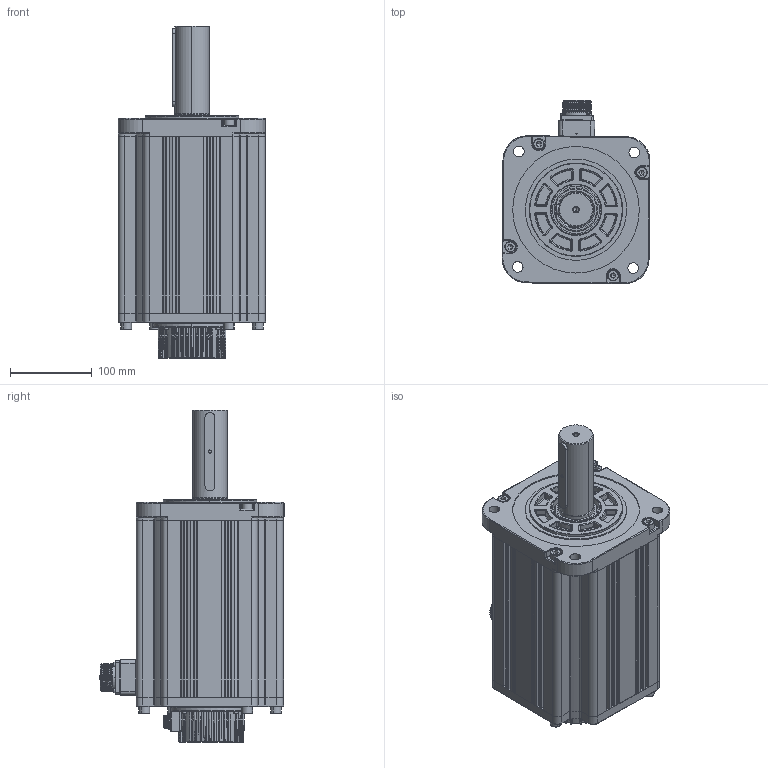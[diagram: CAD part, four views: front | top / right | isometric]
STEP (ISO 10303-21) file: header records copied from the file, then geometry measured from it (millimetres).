
FILE_DESCRIPTION (( 'STEP AP214' ), '1' );
FILE_NAME ('153.5长铁芯 无刹车 B出轴.STEP', '2021-10-26T06:27:25', ( '' ), ( '' ), 'SwSTEP 2.0', 'SolidWorks 2014', '' );
FILE_SCHEMA (( 'AUTOMOTIVE_DESIGN' ));
Length unit declared in the file: millimetre
Products named in the file (16): す瑩^180#陔萇儂-拸价陬 201021; 埴芛囀鞠褒 ISO 4762 M3 x 10 --- 10N; 埴芛囀鞠褒 ISO 4762 M8 x 30 --- 30N; SC180ヶ傷裔1009; 180儂褲1009; 180#綴傷裔; SCSC瑤諾脣芛 16M-9H; SC180瑤脣釱1015; SC蚐猾 D00B999YF8-TC 44-62-10; 180粣-47沺郋; 153.5长铁芯 无刹车 B出轴; SC晤鎢ん欶200908_10郋; 180#陔隅赽201019; 埴芛囀鞠褒 ISO 4762 M3 x 30 --- 18N; 坋趼攫芛蹟佪 M2X8-8  H type-N; SCCMS3102A22-22P-Z
Assembly tree (31 placements, depth 3):
  153.5长铁芯 无刹车 B出轴
    SC晤鎢ん欶200908_10郋
    SCSC瑤諾脣芛 16M-9H
    SC蚐猾 D00B999YF8-TC 44-62-10
    坋趼攫芛蹟佪 M2X8-8  H type-N  x4
    埴芛囀鞠褒 ISO 4762 M3 x 10 --- 10N  x4
    埴芛囀鞠褒 ISO 4762 M8 x 30 --- 30N  x8
    埴芛囀鞠褒 ISO 4762 M3 x 30 --- 18N  x4
    180粣-47沺郋
    180#綴傷裔
    す瑩^180#陔萇儂-拸价陬 201021
    180#陔隅赽201019
      SC180ヶ傷裔1009
      SCCMS3102A22-22P-Z
      SC180瑤脣釱1015
      180儂褲1009
Bounding box: 181.11 x 225.3 x 406.5 mm (x, y, z)
Volume: 2411457.4 mm3; surface area: 629436.3 mm2
Topology: 30 solids, 30 shells, 3132 faces, 7601 edges, 4430 vertices
Faces by surface type: cylinder 1021, plane 762, torus 465, bspline 440, cone 255, sphere 189
Entity records: 130150 total; most frequent: CARTESIAN_POINT 42158, ORIENTED_EDGE 12846, DIRECTION 12554, EDGE_CURVE 6423, AXIS2_PLACEMENT_3D 5242, VERTEX_POINT 3838, EDGE_LOOP 2893, CIRCLE 2883
